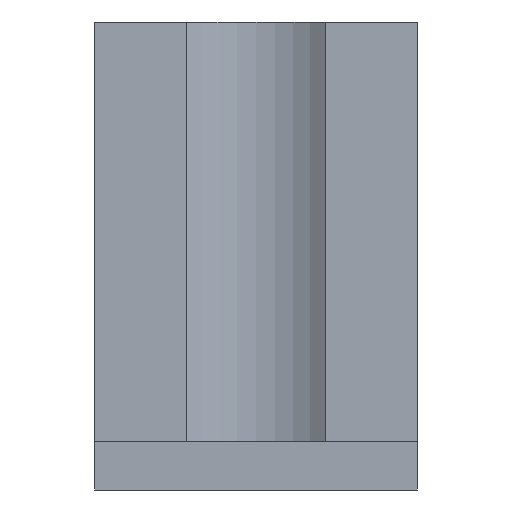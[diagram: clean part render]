
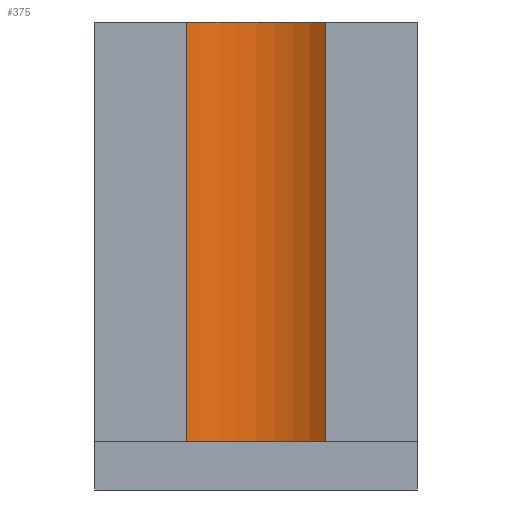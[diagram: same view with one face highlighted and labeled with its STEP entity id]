
A CAD part, front view. The second image highlights one B-rep face of the part: STEP entity #375.
In plain terms, the highlighted cylindrical face has radius 3.5 mm (diameter 7 mm), a partial arc.
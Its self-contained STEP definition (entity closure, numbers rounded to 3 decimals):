
#41=FACE_OUTER_BOUND('',#57,.T.);
#57=EDGE_LOOP('',(#270,#271,#272,#273));
#84=CIRCLE('',#401,3.5);
#85=CIRCLE('',#402,3.5);
#92=LINE('',#540,#136);
#93=LINE('',#544,#137);
#136=VECTOR('',#437,13.);
#137=VECTOR('',#440,13.);
#182=VERTEX_POINT('',#538);
#183=VERTEX_POINT('',#539);
#184=VERTEX_POINT('',#541);
#185=VERTEX_POINT('',#543);
#218=EDGE_CURVE('',#182,#183,#92,.T.);
#219=EDGE_CURVE('',#182,#184,#84,.T.);
#220=EDGE_CURVE('',#185,#184,#93,.T.);
#221=EDGE_CURVE('',#183,#185,#85,.T.);
#270=ORIENTED_EDGE('',*,*,#218,.F.);
#271=ORIENTED_EDGE('',*,*,#219,.T.);
#272=ORIENTED_EDGE('',*,*,#220,.F.);
#273=ORIENTED_EDGE('',*,*,#221,.F.);
#371=CYLINDRICAL_SURFACE('',#400,3.5);
#375=ADVANCED_FACE('',(#41),#371,.F.);
#400=AXIS2_PLACEMENT_3D('',#537,#435,#436);
#401=AXIS2_PLACEMENT_3D('',#542,#438,#439);
#402=AXIS2_PLACEMENT_3D('',#545,#441,#442);
#435=DIRECTION('center_axis',(0.,0.,1.));
#436=DIRECTION('ref_axis',(-1.,0.,0.));
#437=DIRECTION('',(0.,0.,1.));
#438=DIRECTION('center_axis',(0.,0.,-1.));
#439=DIRECTION('ref_axis',(-1.,0.,0.));
#440=DIRECTION('',(0.,0.,-1.));
#441=DIRECTION('center_axis',(0.,0.,-1.));
#442=DIRECTION('ref_axis',(-1.,0.,0.));
#537=CARTESIAN_POINT('Origin',(0.,-25.25,-11.5));
#538=CARTESIAN_POINT('',(-2.165,-22.5,-11.5));
#539=CARTESIAN_POINT('',(-2.165,-22.5,1.5));
#540=CARTESIAN_POINT('',(-2.165,-22.5,-11.5));
#541=CARTESIAN_POINT('',(2.165,-22.5,-11.5));
#542=CARTESIAN_POINT('Origin',(0.,-25.25,-11.5));
#543=CARTESIAN_POINT('',(2.165,-22.5,1.5));
#544=CARTESIAN_POINT('',(2.165,-22.5,-11.5));
#545=CARTESIAN_POINT('Origin',(0.,-25.25,1.5));
